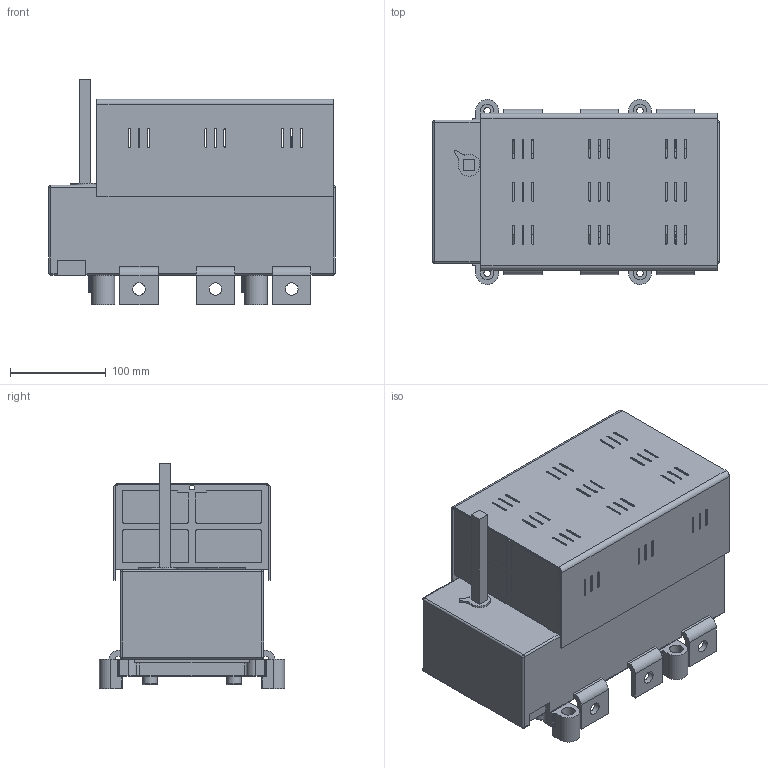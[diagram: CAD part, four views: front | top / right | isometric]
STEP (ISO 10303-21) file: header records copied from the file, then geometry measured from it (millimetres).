
FILE_DESCRIPTION(/* description */ (''),/* implementation_level */ '2;1');
FILE_NAME(/* name */ 'RAB 3 P3 C.stp',/* time_stamp */ '2021-08-19T15:11:52+02:00',/* author */ (''),/* organization */ (''),/* preprocessor_version */ 'ST-DEVELOPER v18.1',/* originating_system */ 'SIEMENS PLM Software NX 1965',/* authorisation */ '');
FILE_SCHEMA (('AUTOMOTIVE_DESIGN { 1 0 10303 214 3 1 1 1 }'));
Length unit declared in the file: millimetre
Products named in the file (1): RAB 3 P3 C_stp
Bounding box: 300 x 194 x 236 mm (x, y, z)
Volume: 4461904.4 mm3; surface area: 633406.8 mm2
Topology: 1 solids, 13 shells, 1570 faces, 4265 edges, 2733 vertices
Faces by surface type: plane 910, cylinder 550, bspline 50, torus 44, cone 8, sphere 8
Full cylindrical faces by diameter (mm): 3 x4, 4.8 x4, 5.6 x4, 6.5 x26, 7 x4, 10.5 x26, 13 x6, 13.5 x4, 14 x4, 15 x4
Entity records: 51295 total; most frequent: CARTESIAN_POINT 11471, DIRECTION 8242, ORIENTED_EDGE 8232, EDGE_CURVE 4116, LINE 2792, VECTOR 2792, AXIS2_PLACEMENT_3D 2725, VERTEX_POINT 2706
